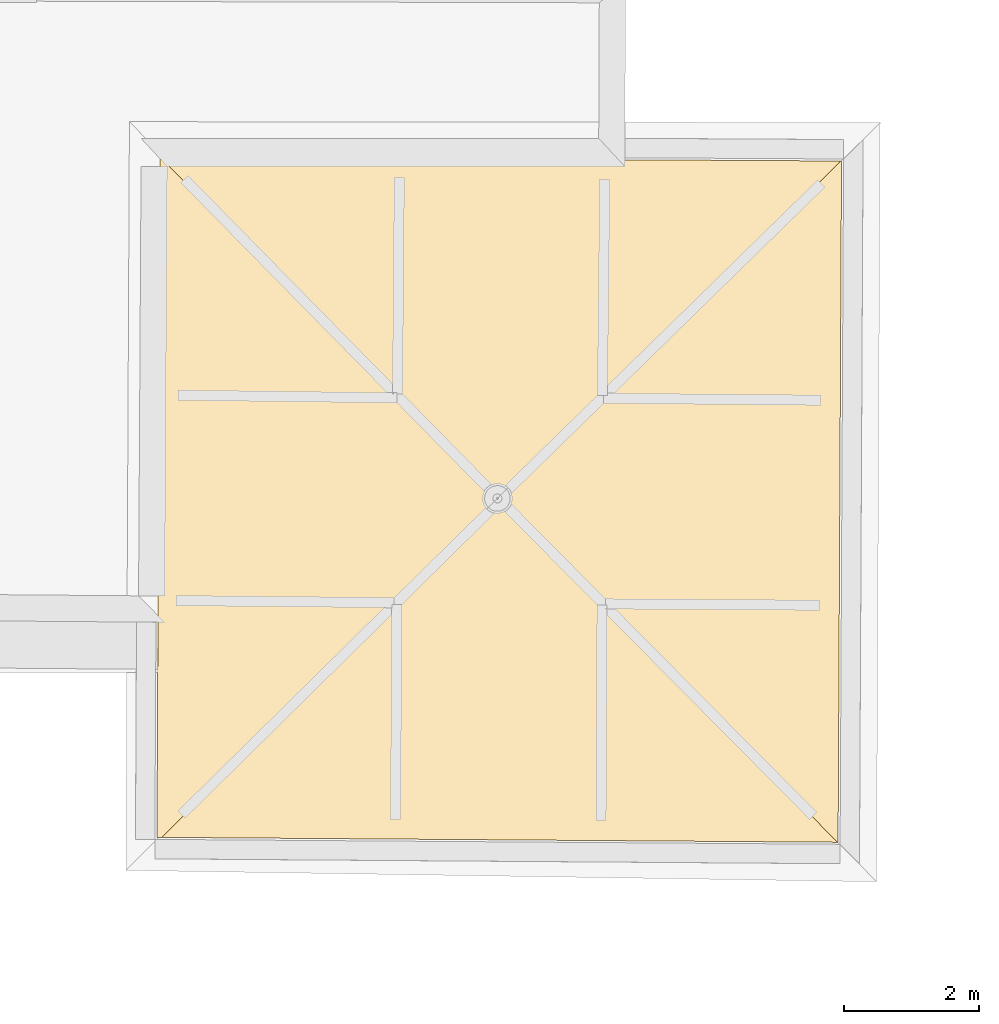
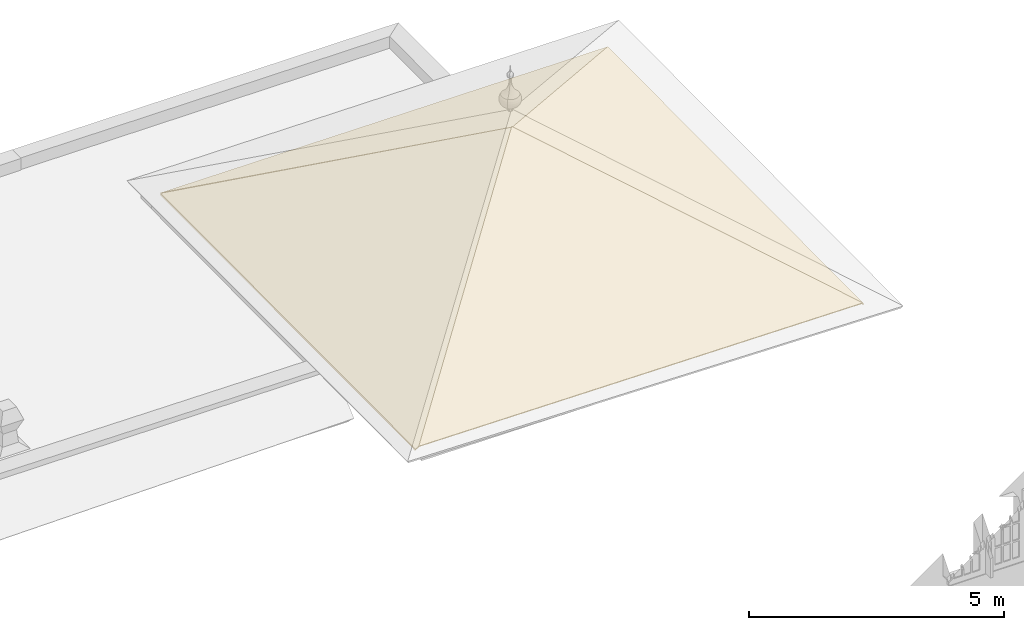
# One storey, part 137 of 158: 4 coverings.
"""IFC2X3 building model written with IfcOpenShell, lengths in metres."""

from ifc_helpers import new_model, entity, si_unit, converted_unit, derived_unit, money_unit, direction, frame, origin_with_axes, place, context, subcontext, project, spatial, faceted_brep, material, type_object, element, save


model = new_model("IFC2X3")

# Units and contexts
model_context = context("Model", 3, precision=1e-05, world=origin_with_axes(), true_north=direction((0.0, 1.0)))
body_context = subcontext(model_context, "Body", "Model", "MODEL_VIEW")
ifc_project = project(units=[si_unit("LENGTHUNIT", "METRE"), si_unit("AREAUNIT", "SQUARE_METRE"), si_unit("VOLUMEUNIT", "CUBIC_METRE"), converted_unit("PLANEANGLEUNIT", "DEGREE", entity("IfcPlaneAngleMeasure", 0.0174532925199), si_unit("PLANEANGLEUNIT", "RADIAN"), dimensions=[0, 0, 0, 0, 0, 0, 0]), money_unit("EUR"), converted_unit("TIMEUNIT", "Year", entity("IfcTimeMeasure", 31556926.0), si_unit("TIMEUNIT", "SECOND"), dimensions=[0, 0, 1, 0, 0, 0, 0]), si_unit("MASSUNIT", "GRAM", prefix="KILO"), si_unit("THERMODYNAMICTEMPERATUREUNIT", "DEGREE_CELSIUS"), si_unit("LUMINOUSINTENSITYUNIT", "LUMEN"), si_unit("ENERGYUNIT", "JOULE", prefix="MEGA"), derived_unit("THERMALCONDUCTANCEUNIT", [(si_unit("POWERUNIT", "WATT"), 1), (si_unit("LENGTHUNIT", "METRE"), -1), (si_unit("THERMODYNAMICTEMPERATUREUNIT", "KELVIN"), -1)]), derived_unit("SPECIFICHEATCAPACITYUNIT", [(si_unit("ENERGYUNIT", "JOULE"), 1), (si_unit("MASSUNIT", "GRAM", prefix="KILO"), -1), (si_unit("THERMODYNAMICTEMPERATUREUNIT", "KELVIN"), -1)]), derived_unit("MASSDENSITYUNIT", [(si_unit("MASSUNIT", "GRAM", prefix="KILO"), 1), (si_unit("VOLUMEUNIT", "CUBIC_METRE"), -1)])], contexts=[model_context])

# Site, building, storey
site_placement = place(None, origin_with_axes())
site = spatial("IfcSite", under=ifc_project, at=site_placement, Name="Gelände", CompositionType="ELEMENT")
building_placement = place(site_placement, origin_with_axes())
building = spatial("IfcBuilding", under=site, at=building_placement, Name="Gebäude", CompositionType="ELEMENT")
storey_placement = place(building_placement, origin_with_axes())
storey = spatial("IfcBuildingStorey", under=building, at=storey_placement, Name="ERDGESCHOSS", CompositionType="ELEMENT", Elevation=0.0)

# Coverings
ifc_material = material(Name="02_ALLGEMEIN - BEKLEIDUNG")
covering_type = type_object("IfcCoveringType", Name="02_ALLGEMEIN - BEKLEIDUNG 40", PredefinedType="CEILING")
covering_1_placement = place(storey_placement, frame((0.807987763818, 36.5040648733, 1.30969463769), z_axis=(0.0, 0.0, 1.0), x_axis=(0.999997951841, -0.00202393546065, 0.0)))
element("IfcCovering", 1, at=covering_1_placement, inside=storey, type_object=covering_type, material=ifc_material, Name="Dach-001", PredefinedType="CEILING", context=body_context, shape_type="Brep", body=[
    faceted_brep([(8.3367442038, -0.745567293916, -0.379725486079), (3.30371106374, 4.33685551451, 2.52281487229), (-1.69338736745, -0.693188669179, -0.349812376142), (8.31683119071, -0.725626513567, -0.414400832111), (3.30373180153, 4.33666693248, 2.4766437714), (-1.67357520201, -0.673455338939, -0.384606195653)], [[[0, 1, 2]], [[1, 0, 3, 4]], [[2, 1, 4, 5]], [[0, 2, 5, 3]], [[4, 3, 5]]]),
])
covering_2_placement = place(storey_placement, frame((8.3603559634, 37.5243463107, 1.33814024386), z_axis=(0.0, 0.0, 1.0), x_axis=(0.00340010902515, 0.999994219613, 0.0)))
element("IfcCovering", 2, at=covering_2_placement, inside=storey, type_object=covering_type, material=ifc_material, Name="Dach-002", PredefinedType="CEILING", context=body_context, shape_type="Brep", body=[
    faceted_brep([(8.3340494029, -0.803892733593, -0.416801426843), (3.28278567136, 4.2385464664, 2.4871305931), (-1.78832069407, -0.797121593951, -0.412901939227), (8.33402680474, -0.814015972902, -0.422631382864), (8.31899838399, -0.788787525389, -0.454261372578), (3.28274260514, 4.23866994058, 2.44104269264), (-1.78848782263, -0.797121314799, -0.459060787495), (8.31894212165, -0.813990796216, -0.468775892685)], [[[0, 1, 2, 3]], [[1, 0, 4, 5]], [[2, 1, 5, 6]], [[3, 2, 6, 7]], [[0, 3, 7, 4]], [[5, 4, 7, 6]]]),
])
covering_3_placement = place(storey_placement, frame((7.70155323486, 45.1004263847, 1.313251), z_axis=(0.0, 0.0, 1.0), x_axis=(-0.999983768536, 0.00569760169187, 0.0)))
element("IfcCovering", 3, at=covering_3_placement, inside=storey, type_object=covering_type, material=ifc_material, Name="Dach-003", PredefinedType="CEILING", context=body_context, shape_type="Brep", body=[
    faceted_brep([(-1.48670053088, -0.763670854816, -0.391912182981), (8.61784566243, -0.763011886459, -0.391534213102), (3.56905302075, 4.29925344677, 2.51207078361), (3.54416293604, 4.29920782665, 2.5120446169), (-1.48662022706, -0.763670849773, -0.438024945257), (8.61776513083, -0.763011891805, -0.437646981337), (3.56892969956, 4.29929634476, 2.4659826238), (3.54428631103, 4.29925117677, 2.46595671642)], [[[0, 1, 2, 3]], [[1, 0, 4, 5]], [[2, 1, 5, 6]], [[3, 2, 6, 7]], [[0, 3, 7, 4]], [[5, 4, 7, 6]]]),
])
covering_4_placement = place(storey_placement, frame((-0.13408044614, 44.7266616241, 1.31767972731), z_axis=(0.0, 0.0, 1.0), x_axis=(-0.00591486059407, -0.999982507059, 0.0)))
element("IfcCovering", 4, at=covering_4_placement, inside=storey, type_object=covering_type, material=ifc_material, Name="Dach-004", PredefinedType="CEILING", context=body_context, shape_type="Brep", body=[
    faceted_brep([(8.91665301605, -0.699990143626, -0.357797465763), (3.87981936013, 4.26506270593, 2.50765260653), (-1.18124443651, -0.784725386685, -0.406700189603), (8.91655488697, -0.773756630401, -0.400369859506), (8.9015672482, -0.684912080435, -0.395279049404), (3.87988328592, 4.26520697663, 2.46155237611), (-1.18132519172, -0.784725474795, -0.452883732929), (8.90144903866, -0.773773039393, -0.446562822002)], [[[0, 1, 2, 3]], [[1, 0, 4, 5]], [[2, 1, 5, 6]], [[3, 2, 6, 7]], [[0, 3, 7, 4]], [[5, 4, 7, 6]]]),
])

save(model, "model.ifc")
